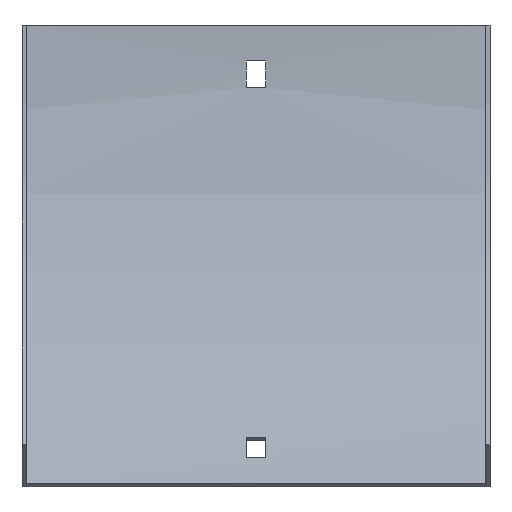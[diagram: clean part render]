
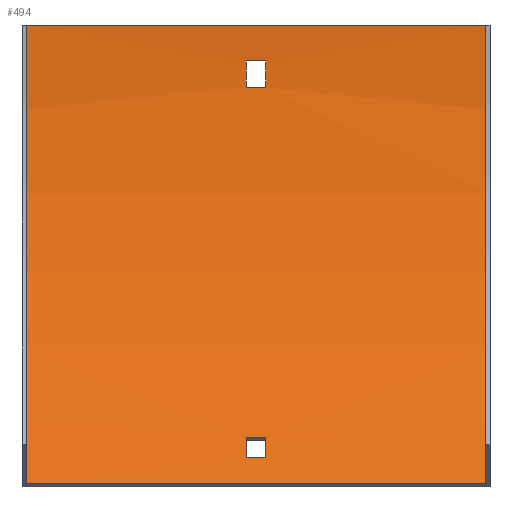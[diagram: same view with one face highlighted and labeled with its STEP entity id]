
A CAD part, front view. The second image highlights one B-rep face of the part: STEP entity #494.
In plain terms, the highlighted cylindrical face has radius 217.5 mm (diameter 435 mm), a partial arc.
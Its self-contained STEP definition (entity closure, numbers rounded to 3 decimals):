
#12 = VECTOR ( 'NONE', #58, 1000. ) ;
#14 = DIRECTION ( 'NONE',  ( 0., 0., 1. ) ) ;
#17 = EDGE_CURVE ( 'NONE', #372, #133, #429, .T. ) ;
#18 = CYLINDRICAL_SURFACE ( 'NONE', #53, 217.5 ) ;
#31 = ORIENTED_EDGE ( 'NONE', *, *, #366, .T. ) ;
#42 = VERTEX_POINT ( 'NONE', #351 ) ;
#45 = AXIS2_PLACEMENT_3D ( 'NONE', #374, #225, #456 ) ;
#50 = CARTESIAN_POINT ( 'NONE',  ( 77., -65.204, -153.796 ) ) ;
#53 = AXIS2_PLACEMENT_3D ( 'NONE', #483, #66, #14 ) ;
#58 = DIRECTION ( 'NONE',  ( -1., 0., 0. ) ) ;
#66 = DIRECTION ( 'NONE',  ( -1., 0., 0. ) ) ;
#72 = LINE ( 'NONE', #153, #12 ) ;
#74 = EDGE_CURVE ( 'NONE', #412, #42, #348, .T. ) ;
#75 = ORIENTED_EDGE ( 'NONE', *, *, #252, .F. ) ;
#77 = AXIS2_PLACEMENT_3D ( 'NONE', #230, #461, #223 ) ;
#82 = VERTEX_POINT ( 'NONE', #342 ) ;
#95 = ORIENTED_EDGE ( 'NONE', *, *, #190, .F. ) ;
#96 = AXIS2_PLACEMENT_3D ( 'NONE', #425, #283, #606 ) ;
#104 = CARTESIAN_POINT ( 'NONE',  ( 78.5, -2.516, -21. ) ) ;
#119 = ORIENTED_EDGE ( 'NONE', *, *, #74, .T. ) ;
#128 = CARTESIAN_POINT ( 'NONE',  ( -3.25, -219., 0. ) ) ;
#133 = VERTEX_POINT ( 'NONE', #157 ) ;
#136 = VECTOR ( 'NONE', #493, 1000. ) ;
#139 = CARTESIAN_POINT ( 'NONE',  ( 77., -1.5, 0. ) ) ;
#144 = LINE ( 'NONE', #104, #570 ) ;
#146 = CARTESIAN_POINT ( 'NONE',  ( 77., -65.204, -153.796 ) ) ;
#153 = CARTESIAN_POINT ( 'NONE',  ( 78.5, -56.953, -145.076 ) ) ;
#157 = CARTESIAN_POINT ( 'NONE',  ( -77., -65.204, -153.796 ) ) ;
#166 = CIRCLE ( 'NONE', #96, 217.5 ) ;
#171 = ORIENTED_EDGE ( 'NONE', *, *, #443, .F. ) ;
#172 = VECTOR ( 'NONE', #243, 1000. ) ;
#190 = EDGE_CURVE ( 'NONE', #580, #82, #581, .T. ) ;
#200 = LINE ( 'NONE', #324, #545 ) ;
#202 = CARTESIAN_POINT ( 'NONE',  ( -77., -1.5, 0. ) ) ;
#203 = ORIENTED_EDGE ( 'NONE', *, *, #473, .T. ) ;
#223 = DIRECTION ( 'NONE',  ( 0., 0., 1. ) ) ;
#224 = VERTEX_POINT ( 'NONE', #503 ) ;
#225 = DIRECTION ( 'NONE',  ( 1., 0., 0. ) ) ;
#230 = CARTESIAN_POINT ( 'NONE',  ( 77., -219., 0. ) ) ;
#236 = AXIS2_PLACEMENT_3D ( 'NONE', #445, #584, #302 ) ;
#243 = DIRECTION ( 'NONE',  ( -1., 0., 0. ) ) ;
#248 = DIRECTION ( 'NONE',  ( 0., 0., -1. ) ) ;
#252 = EDGE_CURVE ( 'NONE', #133, #466, #387, .T. ) ;
#261 = CARTESIAN_POINT ( 'NONE',  ( 77., -1.5, 0. ) ) ;
#265 = VERTEX_POINT ( 'NONE', #555 ) ;
#283 = DIRECTION ( 'NONE',  ( 1., 0., 0. ) ) ;
#284 = ORIENTED_EDGE ( 'NONE', *, *, #422, .F. ) ;
#289 = EDGE_CURVE ( 'NONE', #372, #531, #399, .T. ) ;
#298 = FACE_OUTER_BOUND ( 'NONE', #326, .T. ) ;
#302 = DIRECTION ( 'NONE',  ( 0., 0., 1. ) ) ;
#303 = ORIENTED_EDGE ( 'NONE', *, *, #603, .T. ) ;
#324 = CARTESIAN_POINT ( 'NONE',  ( 78.5, -51.074, -138.228 ) ) ;
#326 = EDGE_LOOP ( 'NONE', ( #75, #364, #333, #510 ) ) ;
#329 = AXIS2_PLACEMENT_3D ( 'NONE', #128, #597, #463 ) ;
#330 = CARTESIAN_POINT ( 'NONE',  ( 78.5, -1.831, -12. ) ) ;
#331 = VERTEX_POINT ( 'NONE', #414 ) ;
#332 = LINE ( 'NONE', #330, #582 ) ;
#333 = ORIENTED_EDGE ( 'NONE', *, *, #289, .T. ) ;
#334 = EDGE_CURVE ( 'NONE', #531, #466, #419, .T. ) ;
#342 = CARTESIAN_POINT ( 'NONE',  ( -3.25, -2.516, -21. ) ) ;
#348 = CIRCLE ( 'NONE', #236, 217.5 ) ;
#350 = FACE_BOUND ( 'NONE', #566, .T. ) ;
#351 = CARTESIAN_POINT ( 'NONE',  ( 3.25, -56.953, -145.076 ) ) ;
#359 = EDGE_CURVE ( 'NONE', #82, #224, #144, .T. ) ;
#363 = CIRCLE ( 'NONE', #591, 217.5 ) ;
#364 = ORIENTED_EDGE ( 'NONE', *, *, #17, .F. ) ;
#366 = EDGE_CURVE ( 'NONE', #331, #475, #363, .T. ) ;
#367 = ORIENTED_EDGE ( 'NONE', *, *, #359, .F. ) ;
#372 = VERTEX_POINT ( 'NONE', #146 ) ;
#374 = CARTESIAN_POINT ( 'NONE',  ( -77., -219., 0. ) ) ;
#381 = DIRECTION ( 'NONE',  ( 1., 0., 0. ) ) ;
#383 = DIRECTION ( 'NONE',  ( -1., 0., 0. ) ) ;
#387 = CIRCLE ( 'NONE', #45, 217.5 ) ;
#399 = CIRCLE ( 'NONE', #77, 217.5 ) ;
#412 = VERTEX_POINT ( 'NONE', #432 ) ;
#414 = CARTESIAN_POINT ( 'NONE',  ( -3.25, -56.953, -145.076 ) ) ;
#419 = LINE ( 'NONE', #139, #136 ) ;
#422 = EDGE_CURVE ( 'NONE', #265, #580, #332, .T. ) ;
#423 = DIRECTION ( 'NONE',  ( 1., 0., 0. ) ) ;
#424 = EDGE_LOOP ( 'NONE', ( #95, #284, #171, #367 ) ) ;
#425 = CARTESIAN_POINT ( 'NONE',  ( 3.25, -219., 0. ) ) ;
#429 = LINE ( 'NONE', #50, #172 ) ;
#432 = CARTESIAN_POINT ( 'NONE',  ( 3.25, -51.074, -138.228 ) ) ;
#443 = EDGE_CURVE ( 'NONE', #224, #265, #166, .T. ) ;
#445 = CARTESIAN_POINT ( 'NONE',  ( 3.25, -219., 0. ) ) ;
#452 = FACE_BOUND ( 'NONE', #424, .T. ) ;
#456 = DIRECTION ( 'NONE',  ( 0., 0., 1. ) ) ;
#461 = DIRECTION ( 'NONE',  ( 1., 0., 0. ) ) ;
#463 = DIRECTION ( 'NONE',  ( 0., 0., 1. ) ) ;
#466 = VERTEX_POINT ( 'NONE', #202 ) ;
#473 = EDGE_CURVE ( 'NONE', #475, #412, #200, .T. ) ;
#475 = VERTEX_POINT ( 'NONE', #559 ) ;
#483 = CARTESIAN_POINT ( 'NONE',  ( 78.5, -219., 0. ) ) ;
#493 = DIRECTION ( 'NONE',  ( -1., 0., 0. ) ) ;
#494 = ADVANCED_FACE ( 'NONE', ( #452, #298, #350 ), #18, .F. ) ;
#503 = CARTESIAN_POINT ( 'NONE',  ( 3.25, -2.516, -21. ) ) ;
#510 = ORIENTED_EDGE ( 'NONE', *, *, #334, .T. ) ;
#517 = CARTESIAN_POINT ( 'NONE',  ( -3.25, -219., 0. ) ) ;
#531 = VERTEX_POINT ( 'NONE', #261 ) ;
#538 = CARTESIAN_POINT ( 'NONE',  ( -3.25, -1.831, -12. ) ) ;
#545 = VECTOR ( 'NONE', #423, 1000. ) ;
#555 = CARTESIAN_POINT ( 'NONE',  ( 3.25, -1.831, -12. ) ) ;
#559 = CARTESIAN_POINT ( 'NONE',  ( -3.25, -51.074, -138.228 ) ) ;
#563 = DIRECTION ( 'NONE',  ( 1., 0., 0. ) ) ;
#566 = EDGE_LOOP ( 'NONE', ( #303, #31, #203, #119 ) ) ;
#570 = VECTOR ( 'NONE', #381, 1000. ) ;
#580 = VERTEX_POINT ( 'NONE', #538 ) ;
#581 = CIRCLE ( 'NONE', #329, 217.5 ) ;
#582 = VECTOR ( 'NONE', #383, 1000. ) ;
#584 = DIRECTION ( 'NONE',  ( -1., 0., 0. ) ) ;
#591 = AXIS2_PLACEMENT_3D ( 'NONE', #517, #563, #248 ) ;
#597 = DIRECTION ( 'NONE',  ( -1., 0., 0. ) ) ;
#603 = EDGE_CURVE ( 'NONE', #42, #331, #72, .T. ) ;
#606 = DIRECTION ( 'NONE',  ( 0., 0., -1. ) ) ;
